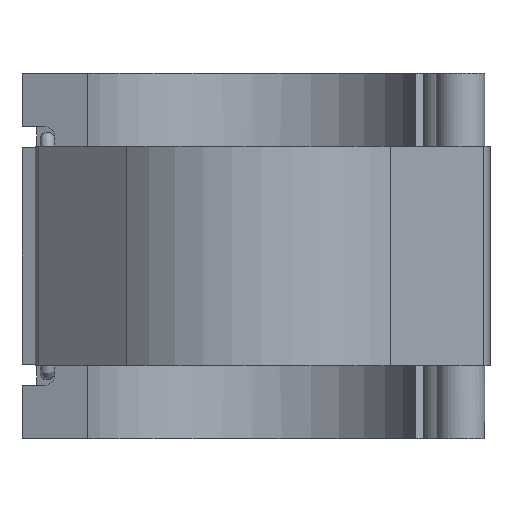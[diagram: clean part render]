
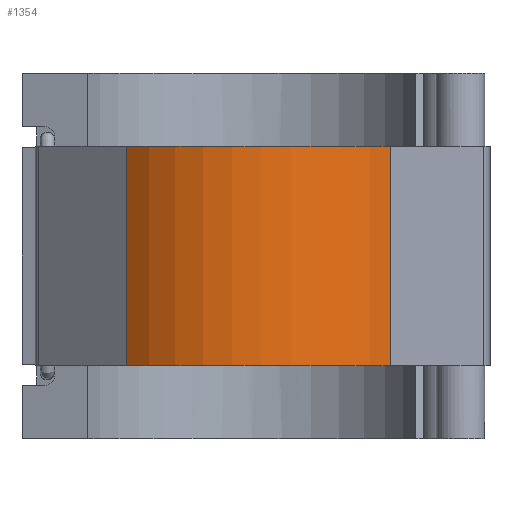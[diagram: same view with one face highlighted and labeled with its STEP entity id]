
A CAD part, front view. The second image highlights one B-rep face of the part: STEP entity #1354.
In plain terms, the highlighted cylindrical face has radius 86.52 mm (diameter 173.04 mm), a partial arc.
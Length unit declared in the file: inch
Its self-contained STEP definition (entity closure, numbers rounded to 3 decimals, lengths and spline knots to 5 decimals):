
#44=CYLINDRICAL_SURFACE('',#1492,3.4063);
#85=CIRCLE('',#1420,3.4063);
#94=CIRCLE('',#1430,3.4063);
#190=FACE_OUTER_BOUND('',#274,.T.);
#274=EDGE_LOOP('',(#1100,#1101,#1102,#1103));
#415=LINE('',#2230,#529);
#416=LINE('',#2232,#530);
#529=VECTOR('',#1807,0.3937);
#530=VECTOR('',#1810,0.3937);
#565=VERTEX_POINT('',#2000);
#566=VERTEX_POINT('',#2002);
#581=VERTEX_POINT('',#2034);
#582=VERTEX_POINT('',#2036);
#694=EDGE_CURVE('',#565,#566,#85,.T.);
#711=EDGE_CURVE('',#581,#582,#94,.T.);
#811=EDGE_CURVE('',#565,#582,#415,.T.);
#812=EDGE_CURVE('',#566,#581,#416,.T.);
#1100=ORIENTED_EDGE('',*,*,#811,.T.);
#1101=ORIENTED_EDGE('',*,*,#711,.F.);
#1102=ORIENTED_EDGE('',*,*,#812,.F.);
#1103=ORIENTED_EDGE('',*,*,#694,.F.);
#1354=ADVANCED_FACE('',(#190),#44,.T.);
#1420=AXIS2_PLACEMENT_3D('',#2003,#1584,#1585);
#1430=AXIS2_PLACEMENT_3D('',#2037,#1612,#1613);
#1492=AXIS2_PLACEMENT_3D('',#2231,#1808,#1809);
#1584=DIRECTION('center_axis',(0.,0.,-1.));
#1585=DIRECTION('ref_axis',(0.997,0.079,0.));
#1612=DIRECTION('center_axis',(0.,0.,1.));
#1613=DIRECTION('ref_axis',(0.997,0.079,0.));
#1807=DIRECTION('',(0.,0.,1.));
#1808=DIRECTION('center_axis',(0.,0.,1.));
#1809=DIRECTION('ref_axis',(0.997,0.079,0.));
#1810=DIRECTION('',(0.,0.,1.));
#2000=CARTESIAN_POINT('',(2.62433,-2.17159,-2.079));
#2002=CARTESIAN_POINT('',(-2.37623,-2.44057,-2.079));
#2003=CARTESIAN_POINT('Origin',(0.,0.,-2.079));
#2034=CARTESIAN_POINT('',(-2.37623,-2.44057,2.079));
#2036=CARTESIAN_POINT('',(2.62433,-2.17159,2.079));
#2037=CARTESIAN_POINT('Origin',(0.,0.,2.079));
#2230=CARTESIAN_POINT('',(2.62433,-2.17159,0.));
#2231=CARTESIAN_POINT('Origin',(0.,0.,0.));
#2232=CARTESIAN_POINT('',(-2.37623,-2.44057,0.));
